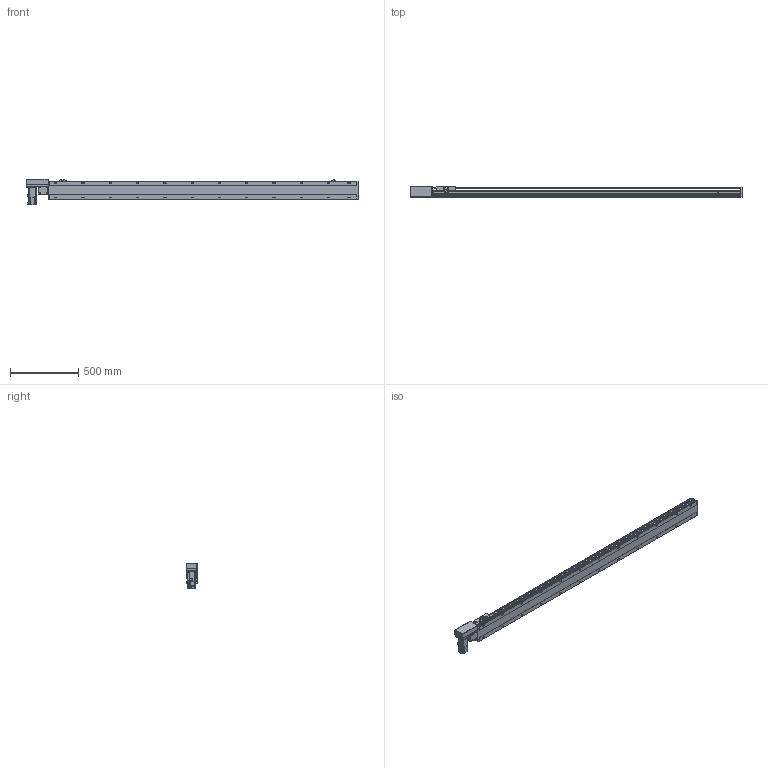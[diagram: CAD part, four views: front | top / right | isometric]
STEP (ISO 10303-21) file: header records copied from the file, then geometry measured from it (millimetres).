
FILE_DESCRIPTION( ( 'STEP AP214' ), '1' );
FILE_NAME( 'x:/temp/worker_27/temp/exporttempdir_6708_380_4z98u/format_0/PBS140-P40-S2000-R-T40-C1-N(0).stp', '2022-06-06T01:30:30', ( 'License CC BY-ND 4.0' ), ( 'CADENAS' ), ' ', 'PARTsolutions', ' ' );
FILE_SCHEMA( ( 'AUTOMOTIVE_DESIGN { 1 0 10303 214 1 1 1 1 }' ) );
Length unit declared in the file: millimetre
Products named in the file (7): PBS140-P40-S2000-R-T40-C1-N(0); _PBS140-S2000()_body; _PBS140T-R_motors; _T40-p1; _PBS140_sliser; _PBS140_plant; _PBS140_sensor
Assembly tree (8 placements, depth 2):
  PBS140-P40-S2000-R-T40-C1-N(0)
    _PBS140-S2000()_body
    _PBS140T-R_motors
    _T40-p1
    _PBS140_sliser
    _PBS140_plant
    _PBS140_sensor  x3
Bounding box: 2433 x 80.5 x 189.7 mm (x, y, z)
Volume: 10705055.5 mm3; surface area: 1833086.8 mm2
Topology: 8 solids, 8 shells, 1139 faces, 2996 edges, 1957 vertices
Faces by surface type: plane 716, cylinder 363, cone 50, sphere 8, torus 2
Full cylindrical faces by diameter (mm): 3.242 x4, 4 x2, 4.134 x4, 4.4 x8, 4.5 x2, 4.8 x4, 4.917 x32, 5.5 x7, 6 x2, 7 x26, 7.5 x8, 8 x12, 8.5 x4, 10.5 x24, 14 x1, 30 x2, 50 x2
Entity records: 41857 total; most frequent: CARTESIAN_POINT 6923, DIRECTION 5477, ORIENTED_EDGE 5152, EDGE_CURVE 2576, AXIS2_PLACEMENT_3D 1927, VERTEX_POINT 1797, LINE 1623, VECTOR 1623
